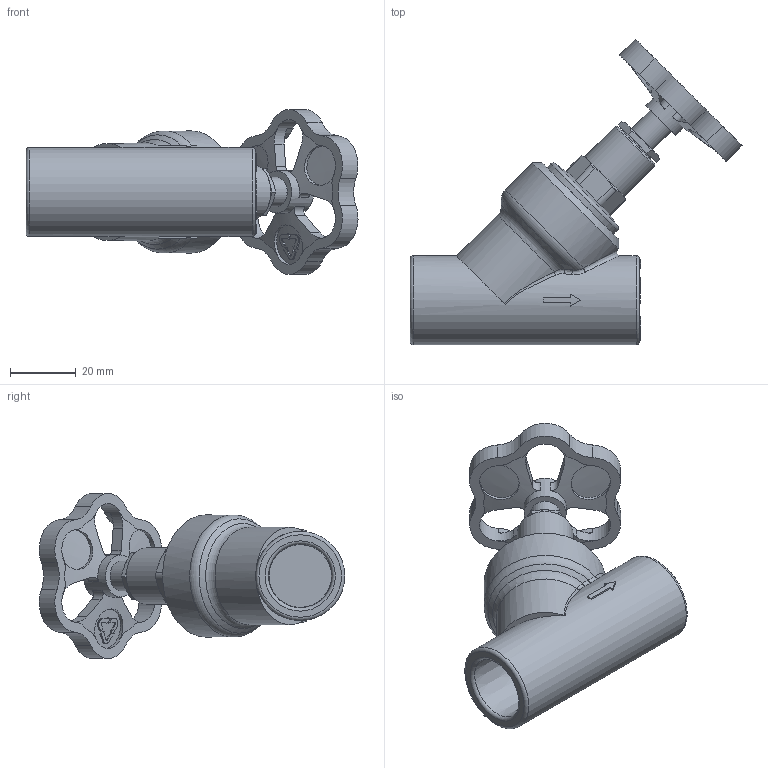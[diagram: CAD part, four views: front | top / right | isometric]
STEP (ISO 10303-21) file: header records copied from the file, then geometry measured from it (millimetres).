
FILE_DESCRIPTION(('STEP AP203'), '1');
FILE_NAME('VTp.714.0.020', '', ('UNSPECIFIED'), ('UNSPECIFIED'), 'C3D Converter', 'C3D Toolkit', '');
FILE_SCHEMA(('CONFIG_CONTROL_DESIGN'));
Length unit declared in the file: millimetre
Products named in the file (1): ВР.491219.001.000 СБ
Bounding box: 100.61 x 92.59 x 50 mm (x, y, z)
Volume: 69405.8 mm3; surface area: 19054.4 mm2
Topology: 1 solids, 1 shells, 700 faces, 1896 edges, 1251 vertices
Faces by surface type: plane 315, extrusion 235, cylinder 82, cone 50, bspline 10, torus 8
Full cylindrical faces by diameter (mm): 4 x1, 5 x1, 9 x1, 9.4 x1, 12 x6, 12.1 x1, 12.376 x1, 12.8 x1, 17 x1, 27 x1, 28.5 x1, 37 x1
Entity records: 30561 total; most frequent: CARTESIAN_POINT 14520, ORIENTED_EDGE 3720, DIRECTION 2359, EDGE_CURVE 1860, VERTEX_POINT 1251, VECTOR 1135, B_SPLINE_CURVE_WITH_KNOTS 1024, LINE 900
